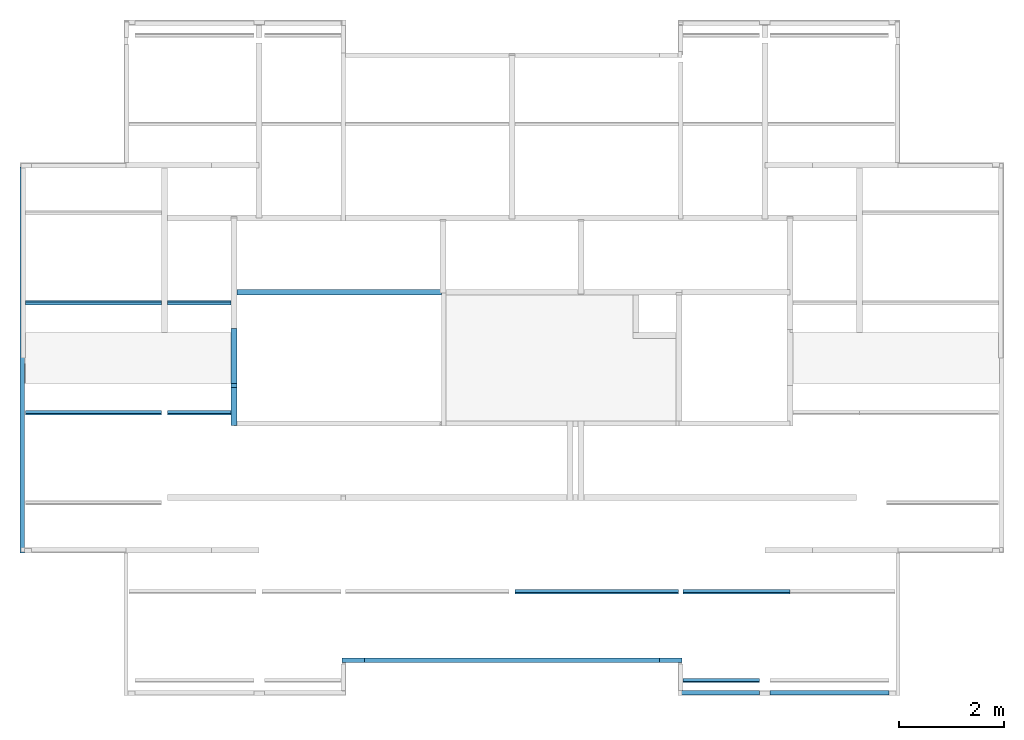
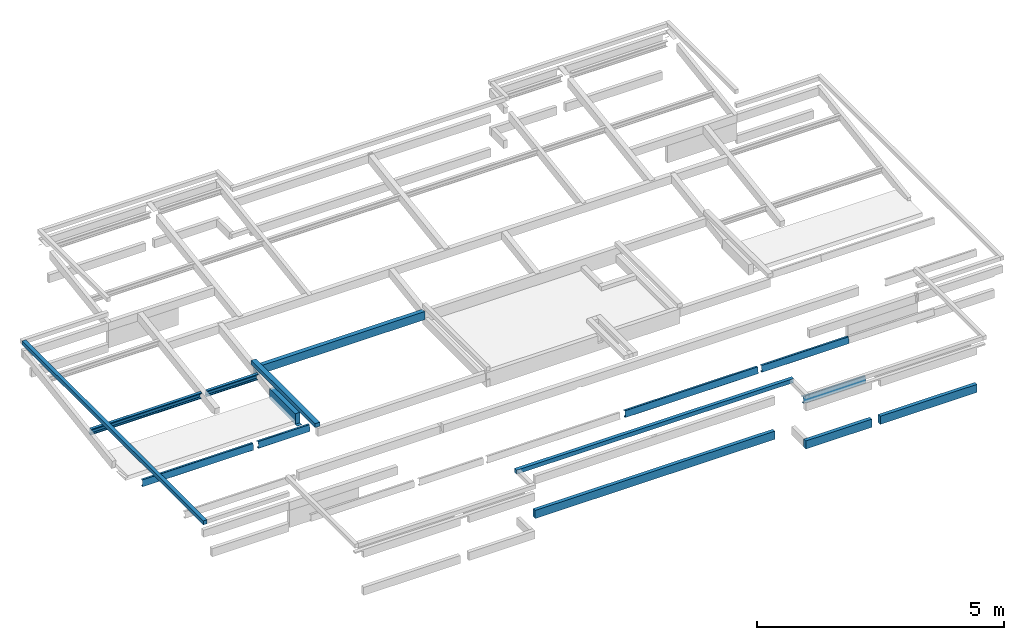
# One storey, part 2 of 9: 14 beams.
"""IFC4 building model written with IfcOpenShell, lengths in metres."""

import ifcopenshell
import ifcopenshell.guid

model = None  # the IFC model being written
_history = None  # IfcOwnerHistory: only IFC2X3 demands one
_inside = {}  # id of a spatial element -> (the spatial element, [elements in it])
_under = {}  # id of a project, library or spatial element -> (it, [spatial elements below it])
_declared = {}  # id of a project -> (the project, [libraries it declares])
_typed = {}  # id of a type object -> (the type object, [elements of that type])
_made_of = {}  # id of a material, layer set ... -> (it, [elements and type objects made of it])


def new_model(schema):
    """Start an empty IFC model of exactly this schema.

    Asked for "IFC4X3", IfcOpenShell would pick the latest addendum, in which some entities
    have other attributes; the version numbers below select the first issue.
    IFC2X3 requires an IfcOwnerHistory on every rooted entity: one is made here for all.
    """
    global model, _history
    if schema == "IFC4X3":
        model = ifcopenshell.file(schema_version=(4, 3, 0, 0))
    else:
        model = ifcopenshell.file(schema=schema)
    _inside.clear()
    _under.clear()
    _declared.clear()
    _typed.clear()
    _made_of.clear()
    _history = None
    if model.schema == "IFC2X3":
        org = make("IfcOrganization", Name="unknown")
        user = make(
            "IfcPersonAndOrganization",
            ThePerson=make("IfcPerson", FamilyName="unknown"),
            TheOrganization=org,
        )
        app = make(
            "IfcApplication",
            ApplicationDeveloper=org,
            Version="unknown",
            ApplicationFullName="unknown",
            ApplicationIdentifier="unknown",
        )
        _history = make(
            "IfcOwnerHistory",
            OwningUser=user,
            OwningApplication=app,
            ChangeAction="ADDED",
            CreationDate=0,
        )
    return model


def make(cls, **values):
    """One entity of the class cls with the attributes given. An attribute that is None is left unset."""
    return model.create_entity(
        cls, **{name: value for name, value in values.items() if value is not None}
    )


def entity(cls, *values):
    """Any entity or typed value of the class cls, its attributes in the order of the schema. None: left unset."""
    e = model.create_entity(cls)
    for i, value in enumerate(values):
        if value is not None:
            e[i] = value
    return e


def rooted(cls, **values):
    """An entity with a GlobalId (a new one), such as an element, a storey or a relation."""
    return make(cls, GlobalId=ifcopenshell.guid.new(), OwnerHistory=_history, **values)


def si_unit(unit_type, name, prefix=None):
    """IfcSIUnit, for example si_unit("LENGTHUNIT", "METRE", prefix="MILLI")."""
    return make("IfcSIUnit", UnitType=unit_type, Prefix=prefix, Name=name)


def converted_unit(unit_type, name, factor, base, dimensions=None, offset=None):
    """IfcConversionBasedUnit, such as the inch: factor (a typed value) times the base unit."""
    return make(
        "IfcConversionBasedUnit"
        if offset is None
        else "IfcConversionBasedUnitWithOffset",
        ConversionOffset=offset,
        Dimensions=None
        if dimensions is None
        else entity("IfcDimensionalExponents", *dimensions),
        UnitType=unit_type,
        Name=name,
        ConversionFactor=make(
            "IfcMeasureWithUnit", ValueComponent=factor, UnitComponent=base
        ),
    )


def derived_unit(unit_type, elements):
    """IfcDerivedUnit: a product of units, each with its exponent."""
    return make(
        "IfcDerivedUnit",
        Elements=[
            make("IfcDerivedUnitElement", Unit=unit, Exponent=power)
            for unit, power in elements
        ],
        UnitType=unit_type,
    )


def assignment(units):
    """IfcUnitAssignment: the units of a project."""
    return None if units is None else make("IfcUnitAssignment", Units=units)


def point(xyz):
    """IfcCartesianPoint."""
    return None if xyz is None else make("IfcCartesianPoint", Coordinates=xyz)


def direction(xyz):
    """IfcDirection."""
    return None if xyz is None else make("IfcDirection", DirectionRatios=xyz)


def frame(location, z_axis=None, x_axis=None):
    """IfcAxis2Placement3D, a coordinate frame: its origin and axes. An axis left out is left unset."""
    return make(
        "IfcAxis2Placement3D",
        Location=point(location),
        Axis=direction(z_axis),
        RefDirection=direction(x_axis),
    )


def origin():
    """The frame at (0, 0, 0) with its axes left unset."""
    return frame((0.0, 0.0, 0.0))


def place(relative_to, where):
    """IfcLocalPlacement: puts the frame where relative to a parent placement (None: the world)."""
    return make(
        "IfcLocalPlacement", PlacementRelTo=relative_to, RelativePlacement=where
    )


def context(
    kind, dimensions, precision=None, world=None, true_north=None, identifier=None
):
    """IfcGeometricRepresentationContext, for example the 3D "Model" context."""
    return make(
        "IfcGeometricRepresentationContext",
        ContextIdentifier=identifier,
        ContextType=kind,
        CoordinateSpaceDimension=dimensions,
        Precision=precision,
        WorldCoordinateSystem=world,
        TrueNorth=true_north,
    )


def subcontext(parent, identifier, kind, view, scale=None):
    """IfcGeometricRepresentationSubContext, for example "Body" below "Model"."""
    return make(
        "IfcGeometricRepresentationSubContext",
        ContextIdentifier=identifier,
        ContextType=kind,
        ParentContext=parent,
        TargetScale=scale,
        TargetView=view,
    )


def project(units=None, contexts=None):
    """IfcProject with its units and contexts."""
    return rooted(
        "IfcProject",
        Name="project",
        RepresentationContexts=contexts,
        UnitsInContext=assignment(units),
    )


def spatial(cls, under=None, at=None, **own):
    """A site, building, storey or space (cls), placed at a placement, below another one or the project."""
    s = rooted(cls, ObjectPlacement=at, **own)
    if under is not None:
        _under.setdefault(under.id(), (under, []))[1].append(s)
    return s


def point_list(points):
    """IfcCartesianPointList2D or 3D."""
    cls = (
        "IfcCartesianPointList2D" if len(points[0]) == 2 else "IfcCartesianPointList3D"
    )
    return make(cls, CoordList=points)


def line(*indices):
    """IfcLineIndex: a straight run through numbered points of an indexed curve."""
    return model.create_entity("IfcLineIndex", indices)


def arc(*indices):
    """IfcArcIndex: an arc through three numbered points of an indexed curve."""
    return model.create_entity("IfcArcIndex", indices)


def indexed_curve(points, segments=None, self_intersect=None):
    """IfcIndexedPolyCurve: lines and arcs through numbered points (the first is 1)."""
    return make(
        "IfcIndexedPolyCurve",
        Points=point_list(points),
        Segments=segments,
        SelfIntersect=self_intersect,
    )


def outline(outer, holes=None, kind="AREA"):
    """IfcArbitraryClosedProfileDef: a profile drawn as a closed curve; with holes, ...WithVoids."""
    if holes is None:
        return make("IfcArbitraryClosedProfileDef", ProfileType=kind, OuterCurve=outer)
    return make(
        "IfcArbitraryProfileDefWithVoids",
        ProfileType=kind,
        OuterCurve=outer,
        InnerCurves=holes,
    )


def extrude(swept, where, along, depth):
    """IfcExtrudedAreaSolid: the profile swept, set in the frame where, extruded along a direction by depth."""
    return make(
        "IfcExtrudedAreaSolid",
        SweptArea=swept,
        Position=where,
        ExtrudedDirection=direction(along),
        Depth=depth,
    )


def shape(context_of_items, identifier, shape_type, items):
    """IfcShapeRepresentation: the items that make up one representation, for example the "Body"."""
    return make(
        "IfcShapeRepresentation",
        ContextOfItems=context_of_items,
        RepresentationIdentifier=identifier,
        RepresentationType=shape_type,
        Items=items,
    )


def source(mapping_origin, context_of_items, identifier, shape_type, items):
    """IfcRepresentationMap: a shape defined once, which mapped items show again and again."""
    return make(
        "IfcRepresentationMap",
        MappingOrigin=mapping_origin,
        MappedRepresentation=shape(context_of_items, identifier, shape_type, items),
    )


def transform(
    local_origin,
    x_axis=None,
    y_axis=None,
    z_axis=None,
    scale=None,
    scale2=None,
    scale3=None,
    uniform=True,
):
    """IfcCartesianTransformationOperator3D, or its non-uniform kind. x_axis, y_axis, z_axis: its Axis1, 2, 3."""
    if uniform:
        return make(
            "IfcCartesianTransformationOperator3D",
            Axis1=direction(x_axis),
            Axis2=direction(y_axis),
            LocalOrigin=point(local_origin),
            Scale=scale,
            Axis3=direction(z_axis),
        )
    return make(
        "IfcCartesianTransformationOperator3DnonUniform",
        Axis1=direction(x_axis),
        Axis2=direction(y_axis),
        LocalOrigin=point(local_origin),
        Scale=scale,
        Axis3=direction(z_axis),
        Scale2=scale2,
        Scale3=scale3,
    )


def mapped(mapping_source, mapping_target):
    """IfcMappedItem: shows the shape of a source again, moved by a transform."""
    return make(
        "IfcMappedItem", MappingSource=mapping_source, MappingTarget=mapping_target
    )


def material(Name=None, Category=None):
    """IfcMaterial."""
    return make("IfcMaterial", Name=Name, Category=Category)


def made_of(thing, what):
    """Note that an element or type object is made of a material, layer set ...; save() writes the relation."""
    if what is not None:
        _made_of.setdefault(what.id(), (what, []))[1].append(thing)
    return thing


def type_object(cls, material=None, **own):
    """A type object (cls), such as IfcWallType, which elements share."""
    return made_of(rooted(cls, **own), material)


def type_shapes(of_type, sources):
    """Give a type object the sources (RepresentationMaps) that its elements show as mapped items."""
    of_type.RepresentationMaps = sources


def element(
    cls,
    number,
    at=None,
    inside=None,
    cuts=None,
    type_object=None,
    material=None,
    context=None,
    identifier="Body",
    shape_type=None,
    held_by="IfcProductDefinitionShape",
    body=None,
    shapes=None,
    **own,
):
    """One element of the class cls, such as IfcWall. Its Tag is "e" and its number.

    at: its placement. inside: the storey or other place that contains it. cuts: it is an
    opening in that element (IfcRelVoidsElement). A single representation is given by context,
    identifier, shape_type and body (its items); several are given by shapes. held_by: the class
    of the entity that holds the representations. save() writes the other relations.
    """
    e = rooted(cls, Tag="e%d" % number, ObjectPlacement=at, **own)
    if body is not None:
        shapes = [shape(context, identifier, shape_type, body)]
    if shapes is not None:
        e.Representation = make(held_by, Representations=shapes)
    if inside is not None:
        _inside.setdefault(inside.id(), (inside, []))[1].append(e)
    if cuts is not None:
        rooted(
            "IfcRelVoidsElement", RelatingBuildingElement=cuts, RelatedOpeningElement=e
        )
    if type_object is not None:
        _typed.setdefault(type_object.id(), (type_object, []))[1].append(e)
    return made_of(e, material)


def aggregate(whole, parts):
    """IfcRelAggregates: a whole, such as a stair, and the parts it consists of."""
    return rooted("IfcRelAggregates", RelatingObject=whole, RelatedObjects=parts)


def save(model, path):
    """Write the relations noted so far, then the file.

    IfcRelAggregates (storeys below a building ...), IfcRelContainedInSpatialStructure (elements
    in a storey), IfcRelDefinesByType, IfcRelAssociatesMaterial and IfcRelDeclares: one each for
    every whole, place, type object, material and project.
    """
    for whole, parts in _under.values():
        aggregate(whole, parts)
    for where, things in _inside.values():
        rooted(
            "IfcRelContainedInSpatialStructure",
            RelatedElements=things,
            RelatingStructure=where,
        )
    for kind, things in _typed.values():
        rooted("IfcRelDefinesByType", RelatedObjects=things, RelatingType=kind)
    for what, things in _made_of.values():
        rooted("IfcRelAssociatesMaterial", RelatedObjects=things, RelatingMaterial=what)
    for by, libraries in _declared.values():
        rooted("IfcRelDeclares", RelatingContext=by, RelatedDefinitions=libraries)
    model.write(path)


model = new_model("IFC4")

# Units and contexts
model_context = context("Model", 3, precision=1e-05, world=origin(), true_north=direction((6.123031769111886e-17, 1.0)))
body_context = subcontext(model_context, "Body", "Model", "MODEL_VIEW")
ifc_project = project(units=[si_unit("LENGTHUNIT", "METRE"), si_unit("AREAUNIT", "SQUARE_METRE"), si_unit("VOLUMEUNIT", "CUBIC_METRE"), converted_unit("PLANEANGLEUNIT", "DEGREE", entity("IfcRatioMeasure", 0.017453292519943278), si_unit("PLANEANGLEUNIT", "RADIAN"), dimensions=[0, 0, 0, 0, 0, 0, 0]), si_unit("MASSUNIT", "GRAM", prefix="KILO"), derived_unit("MASSDENSITYUNIT", [(si_unit("MASSUNIT", "GRAM", prefix="KILO"), 1), (si_unit("LENGTHUNIT", "METRE"), -3)]), derived_unit("IONCONCENTRATIONUNIT", [(si_unit("MASSUNIT", "GRAM", prefix="KILO"), 1), (si_unit("LENGTHUNIT", "METRE"), -3)]), derived_unit("MOMENTOFINERTIAUNIT", [(si_unit("LENGTHUNIT", "METRE"), 4)]), si_unit("TIMEUNIT", "SECOND"), si_unit("FREQUENCYUNIT", "HERTZ"), si_unit("THERMODYNAMICTEMPERATUREUNIT", "DEGREE_CELSIUS"), derived_unit("THERMALTRANSMITTANCEUNIT", [(si_unit("MASSUNIT", "GRAM", prefix="KILO"), 1), (si_unit("THERMODYNAMICTEMPERATUREUNIT", "KELVIN"), -1), (si_unit("TIMEUNIT", "SECOND"), -3)]), derived_unit("THERMALCONDUCTANCEUNIT", [(si_unit("MASSUNIT", "GRAM", prefix="KILO"), 1), (si_unit("THERMODYNAMICTEMPERATUREUNIT", "KELVIN"), -1), (si_unit("TIMEUNIT", "SECOND"), -3), (si_unit("LENGTHUNIT", "METRE"), 1)]), derived_unit("VOLUMETRICFLOWRATEUNIT", [(si_unit("LENGTHUNIT", "METRE"), 3), (si_unit("TIMEUNIT", "SECOND"), -1)]), derived_unit("MASSFLOWRATEUNIT", [(si_unit("MASSUNIT", "GRAM", prefix="KILO"), 1), (si_unit("TIMEUNIT", "SECOND"), -1)]), derived_unit("ROTATIONALFREQUENCYUNIT", [(si_unit("TIMEUNIT", "SECOND"), -1)]), si_unit("ELECTRICCURRENTUNIT", "AMPERE"), si_unit("ELECTRICVOLTAGEUNIT", "VOLT"), si_unit("POWERUNIT", "WATT"), si_unit("FORCEUNIT", "NEWTON", prefix="KILO"), si_unit("ILLUMINANCEUNIT", "LUX"), si_unit("LUMINOUSFLUXUNIT", "LUMEN"), si_unit("LUMINOUSINTENSITYUNIT", "CANDELA"), derived_unit("USERDEFINED", [(si_unit("MASSUNIT", "GRAM", prefix="KILO"), -1), (si_unit("LENGTHUNIT", "METRE"), -2), (si_unit("TIMEUNIT", "SECOND"), 3), (si_unit("LUMINOUSFLUXUNIT", "LUMEN"), 1)]), derived_unit("USERDEFINED", [(si_unit("MASSUNIT", "GRAM", prefix="KILO"), 1), (si_unit("TIMEUNIT", "SECOND"), -3), (si_unit("LENGTHUNIT", "METRE"), 3), (si_unit("ELECTRICCURRENTUNIT", "AMPERE"), -2)]), derived_unit("SOUNDPOWERUNIT", [(si_unit("MASSUNIT", "GRAM", prefix="KILO"), 1), (si_unit("TIMEUNIT", "SECOND"), -3), (si_unit("LENGTHUNIT", "METRE"), 2)]), derived_unit("SOUNDPRESSUREUNIT", [(si_unit("MASSUNIT", "GRAM", prefix="KILO"), 1), (si_unit("LENGTHUNIT", "METRE"), -1), (si_unit("TIMEUNIT", "SECOND"), -2)]), derived_unit("LINEARVELOCITYUNIT", [(si_unit("LENGTHUNIT", "METRE"), 1), (si_unit("TIMEUNIT", "SECOND"), -1)]), si_unit("PRESSUREUNIT", "PASCAL"), derived_unit("USERDEFINED", [(si_unit("MASSUNIT", "GRAM", prefix="KILO"), 1), (si_unit("LENGTHUNIT", "METRE"), -2), (si_unit("TIMEUNIT", "SECOND"), -2)]), derived_unit("LINEARFORCEUNIT", [(si_unit("MASSUNIT", "GRAM", prefix="KILO"), 1), (si_unit("TIMEUNIT", "SECOND"), -2)]), derived_unit("PLANARFORCEUNIT", [(si_unit("MASSUNIT", "GRAM", prefix="KILO"), 1), (si_unit("LENGTHUNIT", "METRE"), -1), (si_unit("TIMEUNIT", "SECOND"), -2)]), derived_unit("SPECIFICHEATCAPACITYUNIT", [(si_unit("THERMODYNAMICTEMPERATUREUNIT", "KELVIN"), -1), (si_unit("LENGTHUNIT", "METRE"), 2), (si_unit("TIMEUNIT", "SECOND"), -2)]), derived_unit("HEATINGVALUEUNIT", [(si_unit("LENGTHUNIT", "METRE"), 2), (si_unit("TIMEUNIT", "SECOND"), -2)]), derived_unit("VAPORPERMEABILITYUNIT", [(si_unit("LENGTHUNIT", "METRE"), -1), (si_unit("TIMEUNIT", "SECOND"), 1)]), derived_unit("DYNAMICVISCOSITYUNIT", [(si_unit("MASSUNIT", "GRAM", prefix="KILO"), 1), (si_unit("TIMEUNIT", "SECOND"), -1), (si_unit("LENGTHUNIT", "METRE"), -1)]), derived_unit("THERMALEXPANSIONCOEFFICIENTUNIT", [(si_unit("THERMODYNAMICTEMPERATUREUNIT", "KELVIN"), -1)]), derived_unit("MODULUSOFELASTICITYUNIT", [(si_unit("MASSUNIT", "GRAM", prefix="KILO"), 1), (si_unit("LENGTHUNIT", "METRE"), -1), (si_unit("TIMEUNIT", "SECOND"), -2)]), derived_unit("ISOTHERMALMOISTURECAPACITYUNIT", [(si_unit("LENGTHUNIT", "METRE"), 3), (si_unit("MASSUNIT", "GRAM", prefix="KILO"), -1)]), derived_unit("MOISTUREDIFFUSIVITYUNIT", [(si_unit("TIMEUNIT", "SECOND"), -1), (si_unit("LENGTHUNIT", "METRE"), 2)])], contexts=[model_context])

# Site, building, storey
site_placement = place(None, origin())
site = spatial("IfcSite", under=ifc_project, at=site_placement, Name="Default", CompositionType="ELEMENT")
building_placement = place(site_placement, origin())
building = spatial("IfcBuilding", under=site, at=building_placement, Name="Las nubes", CompositionType="ELEMENT")
storey_placement = place(building_placement, frame((0.0, 0.0, 14.100000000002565)))
storey = spatial("IfcBuildingStorey", under=building, at=storey_placement, Name="CUBIERTA", CompositionType="ELEMENT", Elevation=14.100000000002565)

# Beams
ifc_material_1 = material(Name="Concrete, Cast In Situ", Category="Materials")
beam_type_1 = type_object("IfcBeamType", Name="M_Concrete-Rectangular Beam:(0.085x0.20)", PredefinedType="BEAM", material=ifc_material_1)
shared_shape_1 = source(origin(), body_context, "Body", "SweptSolid", [
    extrude(outline(indexed_curve([(-0.10000000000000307, -0.04249999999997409), (0.09999999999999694, -0.04250000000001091), (0.10000000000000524, 0.04249999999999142), (-0.09999999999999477, 0.042500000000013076), (-0.10000000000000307, -0.04249999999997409)], self_intersect=False)), frame((6.517499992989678, -12.182500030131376, 14.10000000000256), z_axis=(1.0, 0.0, 0.0), x_axis=(0.0, 0.0, -1.0)), (0.0, 0.0, 1.0), 5.610000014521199),
])
type_shapes(beam_type_1, [shared_shape_1])
beam_1_placement = place(storey_placement, frame((0.0, 0.0, -14.100000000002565)))
element("IfcBeam", 1, at=beam_1_placement, inside=storey, type_object=beam_type_1, material=ifc_material_1, Name="M_Concrete-Rectangular Beam:(0.085x0.20)", ObjectType="M_Concrete-Rectangular Beam:(0.085x0.20)", PredefinedType="BEAM", context=body_context, shape_type="MappedRepresentation", body=[
    mapped(shared_shape_1, transform((0.0, 0.0, 0.0), scale=1.0)),
])
ifc_material_2 = material(Name="Concrete - Cast-in-Place Concrete - 35 MPa", Category="Materials")
beam_type_2 = type_object("IfcBeamType", Name="M_Concrete-Rectangular Beam:(0.085x0.20)", PredefinedType="BEAM", material=ifc_material_2)
shared_shape_2 = source(origin(), body_context, "Body", "SweptSolid", [
    extrude(outline(indexed_curve([(-0.09999999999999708, -0.04250000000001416), (0.10000000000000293, -0.04249999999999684), (0.09999999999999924, 0.0425000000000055), (-0.10000000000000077, 0.04249999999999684), (-0.09999999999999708, -0.04250000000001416)], self_intersect=False)), frame((14.035000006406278, -12.797500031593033, 14.10000000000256), z_axis=(-1.0, 0.0, 0.0), x_axis=(0.0, 0.0, -1.0)), (0.0, 0.0, 1.0), 1.5424999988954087),
    extrude(outline(indexed_curve([(-0.09999999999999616, -0.04250000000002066), (0.10000000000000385, -0.04249999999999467), (0.09999999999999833, 0.042500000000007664), (-0.10000000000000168, 0.04249999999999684), (-0.09999999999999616, -0.04250000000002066)], self_intersect=False)), frame((16.497500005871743, -12.797500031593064, 14.10000000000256), z_axis=(-1.0, 0.0, 0.0), x_axis=(0.0, 0.0, -1.0)), (0.0, 0.0, 1.0), 2.2624999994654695),
])
type_shapes(beam_type_2, [shared_shape_2])
beam_2_placement = place(storey_placement, frame((0.0, 0.0, -14.100000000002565)))
element("IfcBeam", 2, at=beam_2_placement, inside=storey, type_object=beam_type_2, material=ifc_material_2, Name="M_Concrete-Rectangular Beam:(0.085x0.20)", ObjectType="M_Concrete-Rectangular Beam:(0.085x0.20)", PredefinedType="BEAM", context=body_context, shape_type="MappedRepresentation", body=[
    mapped(shared_shape_2, transform((0.0, 0.0, 0.0), scale=1.0)),
])
beam_type_3 = type_object("IfcBeamType", Name="M_Concrete-Rectangular Beam:(0.085x0.10)", PredefinedType="BEAM", material=ifc_material_1)
shared_shape_3 = source(origin(), body_context, "Body", "SweptSolid", [
    extrude(outline(indexed_curve([(-0.050000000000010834, -0.04249999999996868), (0.04999999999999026, -0.04250000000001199), (0.05000000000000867, 0.04249999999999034), (-0.049999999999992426, 0.04250000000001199), (-0.050000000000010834, -0.04249999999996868)], self_intersect=False)), frame((6.08249999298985, -12.182500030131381, 15.29680000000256), z_axis=(1.0, 0.0, 0.0), x_axis=(0.0, 0.0, -1.0)), (0.0, 0.0, 1.0), 6.480000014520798),
])
type_shapes(beam_type_3, [shared_shape_3])
beam_3_placement = place(storey_placement, frame((0.0, 0.0, -14.100000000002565)))
element("IfcBeam", 3, at=beam_3_placement, inside=storey, type_object=beam_type_3, material=ifc_material_1, Name="M_Concrete-Rectangular Beam:(0.085x0.10)", ObjectType="M_Concrete-Rectangular Beam:(0.085x0.10)", PredefinedType="BEAM", context=body_context, shape_type="MappedRepresentation", body=[
    mapped(shared_shape_3, transform((0.0, 0.0, 0.0), scale=1.0)),
])
beam_type_4 = type_object("IfcBeamType", Name="M_Concrete-Rectangular Beam:(0.115x0.10)", PredefinedType="BEAM", material=ifc_material_1)
shared_shape_4 = source(origin(), body_context, "Body", "SweptSolid", [
    extrude(outline(indexed_curve([(-0.04999999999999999, -0.05750000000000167), (0.04999999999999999, -0.05750000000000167), (0.04999999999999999, 0.05750000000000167), (-0.04999999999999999, 0.05750000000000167), (-0.04999999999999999, -0.05750000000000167)], self_intersect=False)), frame((-1.292500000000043, 0.0, 0.0), z_axis=(1.0, 0.0, 0.0), x_axis=(0.0, 0.0, -1.0)), (0.0, 0.0, 1.0), 2.585000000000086),
])
type_shapes(beam_type_4, [shared_shape_4])
beam_4_placement = place(storey_placement, frame((4.029999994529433, -6.417500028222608, 0.35000000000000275), z_axis=(0.0, 0.0, 1.0), x_axis=(0.0, 1.0, 0.0)))
element("IfcBeam", 4, at=beam_4_placement, inside=storey, type_object=beam_type_4, material=ifc_material_1, Name="M_Concrete-Rectangular Beam:(0.115x0.10)", ObjectType="M_Concrete-Rectangular Beam:(0.115x0.10)", PredefinedType="BEAM", context=body_context, shape_type="MappedRepresentation", body=[
    mapped(shared_shape_4, transform((0.0, 0.0, 0.0), scale=1.0)),
])
ifc_material_3 = material(Name="Concrete - Cast-in-Place Concrete - 28 MPa SLAB", Category="Materials")
beam_type_5 = type_object("IfcBeamType", Name="M_Concrete-Rectangular Beam:(0.10x0.20)", PredefinedType="BEAM", material=ifc_material_3)
shared_shape_5 = source(origin(), body_context, "Body", "SweptSolid", [
    extrude(outline(indexed_curve([(-0.10000000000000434, -0.049999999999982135), (0.09999999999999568, -0.05000000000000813), (0.10000000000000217, 0.049999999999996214), (-0.09999999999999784, 0.05000000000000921), (-0.10000000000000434, -0.049999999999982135)], self_intersect=False)), frame((4.02999999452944, -5.1750000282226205, 14.266100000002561), z_axis=(1.0, 0.0, 0.0), x_axis=(0.0, 0.0, -1.0)), (0.0, 0.0, 1.0), 3.9475000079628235),
])
type_shapes(beam_type_5, [shared_shape_5])
beam_5_placement = place(storey_placement, frame((0.0, 0.0, -14.100000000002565)))
element("IfcBeam", 5, at=beam_5_placement, inside=storey, type_object=beam_type_5, material=ifc_material_3, Name="M_Concrete-Rectangular Beam:(0.10x0.20)", ObjectType="M_Concrete-Rectangular Beam:(0.10x0.20)", PredefinedType="BEAM", context=body_context, shape_type="MappedRepresentation", body=[
    mapped(shared_shape_5, transform((0.0, 0.0, 0.0), scale=1.0)),
])
beam_type_6 = type_object("IfcBeamType", Name="M_Concrete-Rectangular Beam:(0.115x0.26)", PredefinedType="BEAM", material=ifc_material_1)
shared_shape_6 = source(origin(), body_context, "Body", "SweptSolid", [
    extrude(outline(indexed_curve([(-0.5844230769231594, -0.1666144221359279), (-0.5109629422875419, -0.1666144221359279), (0.4571167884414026, -0.1666144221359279), (0.45807692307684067, -0.1666144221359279), (0.45807692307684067, -0.007914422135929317), (0.4580769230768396, 0.09208557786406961), (0.5355769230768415, 0.09208557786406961), (0.5355769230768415, 0.09338557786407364), (0.03307692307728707, 0.09338557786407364), (-0.08692307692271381, 0.09338557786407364), (-0.5844230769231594, 0.09338557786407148), (-0.5844230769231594, 0.09208557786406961), (-0.5844230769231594, 0.02457306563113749), (-0.5844230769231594, -0.1666144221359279)], self_intersect=False)), frame((3.972499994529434, -6.451923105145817, 14.092085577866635), z_axis=(1.0, 0.0, 0.0), x_axis=(0.0, -1.0, 0.0)), (0.0, 0.0, 1.0), 0.1150000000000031),
])
type_shapes(beam_type_6, [shared_shape_6])
beam_6_placement = place(storey_placement, frame((0.0, 0.0, -14.100000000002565)))
element("IfcBeam", 6, at=beam_6_placement, inside=storey, type_object=beam_type_6, material=ifc_material_1, Name="M_Concrete-Rectangular Beam:(0.115x0.26)", ObjectType="M_Concrete-Rectangular Beam:(0.115x0.26)", PredefinedType="BEAM", context=body_context, shape_type="MappedRepresentation", body=[
    mapped(shared_shape_6, transform((0.0, 0.0, 0.0), scale=1.0)),
])
ifc_material_4 = material(Name="Steel - 300+", Category="Materials")
beam_type_7 = type_object("IfcBeamType", Name="AUS-C Purlin:CR-1", PredefinedType="BEAM", material=ifc_material_4)
shared_shape_7 = source(origin(), body_context, "Body", "SweptSolid", [
    extrude(outline(indexed_curve([(-0.07614999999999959, -0.023850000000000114), (-0.05965000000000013, -0.023850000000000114), (-0.05965000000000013, -0.02185000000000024), (-0.07615000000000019, -0.02185000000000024), (-0.07721066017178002, -0.021410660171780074), (-0.0776500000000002, -0.020350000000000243), (-0.07765000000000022, 0.03265000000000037), (-0.07721066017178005, 0.033710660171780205), (-0.0761500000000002, 0.03415000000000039), (0.07334999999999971, 0.03415000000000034), (0.07688553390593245, 0.03268553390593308), (0.07834999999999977, 0.029150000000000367), (0.07834999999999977, -0.02035000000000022), (0.07791066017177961, -0.021410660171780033), (0.07684999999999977, -0.02185000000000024), (0.06034999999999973, -0.02185000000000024), (0.06034999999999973, -0.023850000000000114), (0.07685000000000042, -0.023850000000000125), (0.07932487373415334, -0.022824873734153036), (0.0803500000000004, -0.020350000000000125), (0.0803500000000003, 0.029149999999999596), (0.078299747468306, 0.034099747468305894), (0.0733499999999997, 0.03615000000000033), (-0.07614999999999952, 0.036150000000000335), (-0.07862487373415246, 0.03512487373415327), (-0.07964999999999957, 0.032650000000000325), (-0.07964999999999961, -0.020350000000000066), (-0.07862487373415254, -0.02282487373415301)], segments=[line(1, 2, 3, 4), arc(4, 5, 6), line(6, 7), arc(7, 8, 9), line(9, 10), arc(10, 11, 12), line(12, 13), arc(13, 14, 15), line(15, 16, 17, 18), arc(18, 19, 20), line(20, 21), arc(21, 22, 23), line(23, 24), arc(24, 25, 26), line(26, 27), arc(27, 28, 1)], self_intersect=False)), frame((-0.6999999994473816, -0.03415000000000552, 0.00034999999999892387), z_axis=(1.0, 0.0, 0.0), x_axis=(0.0, 0.0, -1.0)), (0.0, 0.0, 1.0), 1.4574999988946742),
])
type_shapes(beam_type_7, [shared_shape_7])
beam_7_placement = place(storey_placement, frame((13.335000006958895, -12.594260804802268, 0.9306191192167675), z_axis=(0.0, 0.14834045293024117, 0.9889363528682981), x_axis=(-1.0, 0.0, 0.0)))
element("IfcBeam", 7, at=beam_7_placement, inside=storey, type_object=beam_type_7, material=ifc_material_4, Name="AUS-C Purlin:CR-1", ObjectType="AUS-C Purlin:CR-1", PredefinedType="BEAM", context=body_context, shape_type="MappedRepresentation", body=[
    mapped(shared_shape_7, transform((0.0, 0.0, 0.0), scale=1.0)),
])
beam_type_8 = type_object("IfcBeamType", Name="AUS-C Purlin:CR-1", PredefinedType="BEAM", material=ifc_material_4)
shared_shape_8 = source(origin(), body_context, "Body", "SweptSolid", [
    extrude(outline(indexed_curve([(-0.07614999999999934, -0.03615000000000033), (0.0733499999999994, -0.036150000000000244), (0.07829974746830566, -0.03409974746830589), (0.08035000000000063, -0.02914999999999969), (0.08035000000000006, 0.020350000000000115), (0.07932487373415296, 0.022824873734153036), (0.07685000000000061, 0.023850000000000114), (0.06034999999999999, 0.023850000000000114), (0.06034999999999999, 0.02185000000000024), (0.07684999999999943, 0.02185000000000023), (0.07791066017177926, 0.02141066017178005), (0.07835, 0.020350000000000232), (0.07834999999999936, -0.029150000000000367), (0.0768855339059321, -0.032685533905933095), (0.07334999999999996, -0.03415000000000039), (-0.07615000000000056, -0.03415000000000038), (-0.0772106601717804, -0.033710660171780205), (-0.07764999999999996, -0.03265000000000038), (-0.07765000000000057, 0.02035000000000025), (-0.07721066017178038, 0.021410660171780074), (-0.07614999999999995, 0.02185000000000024), (-0.059649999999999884, 0.02185000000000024), (-0.059649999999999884, 0.023850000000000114), (-0.07614999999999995, 0.023850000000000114), (-0.07862487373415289, 0.02282487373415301), (-0.07964999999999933, 0.020350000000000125), (-0.07964999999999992, -0.032650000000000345), (-0.0786248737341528, -0.03512487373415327)], segments=[line(1, 2), arc(2, 3, 4), line(4, 5), arc(5, 6, 7), line(7, 8, 9, 10), arc(10, 11, 12), line(12, 13), arc(13, 14, 15), line(15, 16), arc(16, 17, 18), line(18, 19), arc(19, 20, 21), line(21, 22, 23, 24), arc(24, 25, 26), line(26, 27), arc(27, 28, 1)], self_intersect=False)), frame((-1.546093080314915, 0.03415000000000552, 0.00034999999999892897), z_axis=(1.0, 0.0, 0.0), x_axis=(0.0, 0.0, -1.0)), (0.0, 0.0, 1.0), 3.109843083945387),
])
type_shapes(beam_type_8, [shared_shape_8])
beam_8_placement = place(storey_placement, frame((10.92875000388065, -10.904557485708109, 0.6771636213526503), z_axis=(0.0, 0.14834045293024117, 0.9889363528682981), x_axis=(1.0, 0.0, 0.0)))
element("IfcBeam", 8, at=beam_8_placement, inside=storey, type_object=beam_type_8, material=ifc_material_4, Name="AUS-C Purlin:CR-1", ObjectType="AUS-C Purlin:CR-1", PredefinedType="BEAM", context=body_context, shape_type="MappedRepresentation", body=[
    mapped(shared_shape_8, transform((0.0, 0.0, 0.0), scale=1.0)),
])
beam_type_9 = type_object("IfcBeamType", Name="AUS-C Purlin:CR-1", PredefinedType="BEAM", material=ifc_material_4)
shared_shape_9 = source(origin(), body_context, "Body", "SweptSolid", [
    extrude(outline(indexed_curve([(-0.07614999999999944, -0.03615000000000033), (0.07334999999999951, -0.036150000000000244), (0.07829974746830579, -0.03409974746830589), (0.08035000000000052, -0.02914999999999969), (0.08035000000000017, 0.020350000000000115), (0.07932487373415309, 0.022824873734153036), (0.07685000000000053, 0.023850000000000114), (0.06034999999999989, 0.023850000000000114), (0.06034999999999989, 0.02185000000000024), (0.07684999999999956, 0.02185000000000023), (0.07791066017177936, 0.021410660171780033), (0.07834999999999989, 0.020350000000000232), (0.07834999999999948, -0.029150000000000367), (0.07688553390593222, -0.032685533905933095), (0.07334999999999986, -0.03415000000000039), (-0.07615000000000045, -0.03415000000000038), (-0.07721066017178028, -0.033710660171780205), (-0.07765000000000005, -0.03265000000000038), (-0.07765000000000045, 0.02035000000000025), (-0.07721066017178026, 0.021410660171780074), (-0.07615000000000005, 0.02185000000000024), (-0.05964999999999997, 0.02185000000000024), (-0.05964999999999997, 0.023850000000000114), (-0.07614999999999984, 0.023850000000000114), (-0.07862487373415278, 0.02282487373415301), (-0.07964999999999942, 0.020350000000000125), (-0.07964999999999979, -0.032650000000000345), (-0.0786248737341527, -0.03512487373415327)], segments=[line(1, 2), arc(2, 3, 4), line(4, 5), arc(5, 6, 7), line(7, 8, 9, 10), arc(10, 11, 12), line(12, 13), arc(13, 14, 15), line(15, 16), arc(16, 17, 18), line(18, 19), arc(19, 20, 21), line(21, 22, 23, 24), arc(24, 25, 26), line(26, 27), arc(27, 28, 1)], self_intersect=False)), frame((-0.9967470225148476, 0.03415000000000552, 0.00034999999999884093), z_axis=(1.0, 0.0, 0.0), x_axis=(0.0, 0.0, -1.0)), (0.0, 0.0, 1.0), 2.036747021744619),
])
type_shapes(beam_type_9, [shared_shape_9])
beam_9_placement = place(storey_placement, frame((13.57500000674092, -10.904557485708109, 0.6771636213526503), z_axis=(0.0, 0.14834045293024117, 0.9889363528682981), x_axis=(1.0, 0.0, 0.0)))
element("IfcBeam", 9, at=beam_9_placement, inside=storey, type_object=beam_type_9, material=ifc_material_4, Name="AUS-C Purlin:CR-1", ObjectType="AUS-C Purlin:CR-1", PredefinedType="BEAM", context=body_context, shape_type="MappedRepresentation", body=[
    mapped(shared_shape_9, transform((0.0, 0.0, 0.0), scale=1.0)),
])
beam_type_10 = type_object("IfcBeamType", Name="AUS-C Purlin:CR-1", PredefinedType="BEAM", material=ifc_material_4)
shared_shape_10 = source(origin(), body_context, "Body", "SweptSolid", [
    extrude(outline(indexed_curve([(-0.07614999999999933, -0.03615000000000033), (0.07334999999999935, -0.036150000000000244), (0.0782997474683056, -0.03409974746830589), (0.08035000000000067, -0.02914999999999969), (0.08035000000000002, 0.020350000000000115), (0.07932487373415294, 0.022824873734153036), (0.07685000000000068, 0.023850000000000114), (0.060349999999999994, 0.023850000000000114), (0.060349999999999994, 0.02185000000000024), (0.0768499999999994, 0.02185000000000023), (0.07791066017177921, 0.021410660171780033), (0.07835000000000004, 0.020350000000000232), (0.07834999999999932, -0.029150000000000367), (0.07688553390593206, -0.032685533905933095), (0.07334999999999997, -0.03415000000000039), (-0.07615000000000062, -0.03415000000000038), (-0.07721066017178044, -0.033710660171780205), (-0.07764999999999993, -0.03265000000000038), (-0.07765000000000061, 0.02035000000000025), (-0.07721066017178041, 0.021410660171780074), (-0.07614999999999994, 0.02185000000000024), (-0.05964999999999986, 0.02185000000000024), (-0.05964999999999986, 0.023850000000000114), (-0.07615000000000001, 0.023850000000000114), (-0.0786248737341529, 0.022824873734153), (-0.0796499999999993, 0.020350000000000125), (-0.07964999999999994, -0.032650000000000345), (-0.07862487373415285, -0.03512487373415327)], segments=[line(1, 2), arc(2, 3, 4), line(4, 5), arc(5, 6, 7), line(7, 8, 9, 10), arc(10, 11, 12), line(12, 13), arc(13, 14, 15), line(15, 16), arc(16, 17, 18), line(18, 19), arc(19, 20, 21), line(21, 22, 23, 24), arc(24, 25, 26), line(26, 27), arc(27, 28, 1)], self_intersect=False)), frame((-1.3043464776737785, 0.03415000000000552, 0.00034999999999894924), z_axis=(1.0, 0.0, 0.0), x_axis=(0.0, 0.0, -1.0)), (0.0, 0.0, 1.0), 2.593814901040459),
])
type_shapes(beam_type_10, [shared_shape_10])
beam_10_placement = place(storey_placement, frame((1.3625005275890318, -7.499557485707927, 0.1664136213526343), z_axis=(0.0, 0.14834045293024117, 0.9889363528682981), x_axis=(1.0, 0.0, 0.0)))
element("IfcBeam", 10, at=beam_10_placement, inside=storey, type_object=beam_type_10, material=ifc_material_4, Name="AUS-C Purlin:CR-1", ObjectType="AUS-C Purlin:CR-1", PredefinedType="BEAM", context=body_context, shape_type="MappedRepresentation", body=[
    mapped(shared_shape_10, transform((0.0, 0.0, 0.0), scale=1.0)),
])
beam_type_11 = type_object("IfcBeamType", Name="AUS-C Purlin:CR-1", PredefinedType="BEAM", material=ifc_material_4)
shared_shape_11 = source(origin(), body_context, "Body", "SweptSolid", [
    extrude(outline(indexed_curve([(-0.07614999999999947, -0.03615000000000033), (0.07334999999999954, -0.036150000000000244), (0.07829974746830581, -0.03409974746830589), (0.08035000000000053, -0.02914999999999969), (0.08035000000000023, 0.020350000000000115), (0.07932487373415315, 0.022824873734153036), (0.07685000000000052, 0.023850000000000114), (0.06034999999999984, 0.023850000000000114), (0.06034999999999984, 0.02185000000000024), (0.0768499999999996, 0.02185000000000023), (0.07791066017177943, 0.02141066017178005), (0.0783499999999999, 0.020350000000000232), (0.07834999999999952, -0.029150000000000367), (0.07688553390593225, -0.032685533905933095), (0.07334999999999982, -0.03415000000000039), (-0.0761500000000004, -0.03415000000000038), (-0.07721066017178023, -0.033710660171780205), (-0.07765000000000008, -0.03265000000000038), (-0.0776500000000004, 0.02035000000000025), (-0.07721066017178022, 0.021410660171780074), (-0.07615000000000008, 0.02185000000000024), (-0.059650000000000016, 0.02185000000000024), (-0.059650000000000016, 0.023850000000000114), (-0.0761499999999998, 0.023850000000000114), (-0.07862487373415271, 0.022824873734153), (-0.07964999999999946, 0.020350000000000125), (-0.07964999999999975, -0.032650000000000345), (-0.07862487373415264, -0.03512487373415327)], segments=[line(1, 2), arc(2, 3, 4), line(4, 5), arc(5, 6, 7), line(7, 8, 9, 10), arc(10, 11, 12), line(12, 13), arc(13, 14, 15), line(15, 16), arc(16, 17, 18), line(18, 19), arc(19, 20, 21), line(21, 22, 23, 24), arc(24, 25, 26), line(26, 27), arc(27, 28, 1)], self_intersect=False)), frame((-0.6017504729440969, 0.03415000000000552, 0.0003499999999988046), z_axis=(1.0, 0.0, 0.0), x_axis=(0.0, 0.0, -1.0)), (0.0, 0.0, 1.0), 1.2034761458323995),
])
type_shapes(beam_type_11, [shared_shape_11])
beam_11_placement = place(storey_placement, frame((3.3700005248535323, -7.499557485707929, 0.1664136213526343), z_axis=(0.0, 0.14834045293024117, 0.9889363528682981), x_axis=(1.0, 0.0, 0.0)))
element("IfcBeam", 11, at=beam_11_placement, inside=storey, type_object=beam_type_11, material=ifc_material_4, Name="AUS-C Purlin:CR-1", ObjectType="AUS-C Purlin:CR-1", PredefinedType="BEAM", context=body_context, shape_type="MappedRepresentation", body=[
    mapped(shared_shape_11, transform((0.0, 0.0, 0.0), scale=1.0)),
])
beam_type_12 = type_object("IfcBeamType", Name="AUS-C Purlin:CR-1", PredefinedType="BEAM", material=ifc_material_4)
shared_shape_12 = source(origin(), body_context, "Body", "SweptSolid", [
    extrude(outline(indexed_curve([(-0.07614999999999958, -0.023850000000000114), (-0.05965000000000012, -0.023850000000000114), (-0.05965000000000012, -0.02185000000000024), (-0.07615000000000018, -0.02185000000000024), (-0.07721066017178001, -0.021410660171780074), (-0.07765000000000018, -0.020350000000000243), (-0.07765000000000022, 0.03265000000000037), (-0.07721066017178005, 0.033710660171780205), (-0.07615000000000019, 0.03415000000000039), (0.07334999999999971, 0.03415000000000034), (0.07688553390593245, 0.03268553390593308), (0.07834999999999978, 0.029150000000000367), (0.07834999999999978, -0.02035000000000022), (0.07791066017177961, -0.021410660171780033), (0.0768499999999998, -0.02185000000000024), (0.060349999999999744, -0.02185000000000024), (0.060349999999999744, -0.023850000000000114), (0.0768500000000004, -0.023850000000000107), (0.07932487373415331, -0.022824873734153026), (0.08035000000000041, -0.020350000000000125), (0.08035000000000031, 0.029149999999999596), (0.078299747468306, 0.034099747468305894), (0.0733499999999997, 0.03615000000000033), (-0.07614999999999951, 0.036150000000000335), (-0.07862487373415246, 0.03512487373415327), (-0.07964999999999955, 0.032650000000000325), (-0.07964999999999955, -0.020350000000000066), (-0.07862487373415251, -0.022824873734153)], segments=[line(1, 2, 3, 4), arc(4, 5, 6), line(6, 7), arc(7, 8, 9), line(9, 10), arc(10, 11, 12), line(12, 13), arc(13, 14, 15), line(15, 16, 17, 18), arc(18, 19, 20), line(20, 21), arc(21, 22, 23), line(23, 24), arc(24, 25, 26), line(26, 27), arc(27, 28, 1)], self_intersect=False)), frame((-1.3043464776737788, -0.03415000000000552, 0.00034999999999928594), z_axis=(1.0, 0.0, 0.0), x_axis=(0.0, 0.0, -1.0)), (0.0, 0.0, 1.0), 2.593814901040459),
])
type_shapes(beam_type_12, [shared_shape_12])
beam_12_placement = place(storey_placement, frame((1.3625005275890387, -5.350442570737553, 0.1664136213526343), z_axis=(0.0, -0.14834045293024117, 0.9889363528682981), x_axis=(1.0, 0.0, 0.0)))
element("IfcBeam", 12, at=beam_12_placement, inside=storey, type_object=beam_type_12, material=ifc_material_4, Name="AUS-C Purlin:CR-1", ObjectType="AUS-C Purlin:CR-1", PredefinedType="BEAM", context=body_context, shape_type="MappedRepresentation", body=[
    mapped(shared_shape_12, transform((0.0, 0.0, 0.0), scale=1.0)),
])
beam_type_13 = type_object("IfcBeamType", Name="AUS-C Purlin:CR-1", PredefinedType="BEAM", material=ifc_material_4)
shared_shape_13 = source(origin(), body_context, "Body", "SweptSolid", [
    extrude(outline(indexed_curve([(-0.07614999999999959, -0.023850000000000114), (-0.05965000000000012, -0.023850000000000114), (-0.05965000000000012, -0.02185000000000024), (-0.07615000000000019, -0.02185000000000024), (-0.07721066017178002, -0.021410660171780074), (-0.0776500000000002, -0.020350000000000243), (-0.07765000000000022, 0.03265000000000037), (-0.07721066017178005, 0.033710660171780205), (-0.0761500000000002, 0.03415000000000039), (0.07334999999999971, 0.03415000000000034), (0.07688553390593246, 0.03268553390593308), (0.07834999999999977, 0.029150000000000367), (0.07834999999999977, -0.02035000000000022), (0.07791066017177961, -0.021410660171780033), (0.07684999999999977, -0.02185000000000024), (0.060349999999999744, -0.02185000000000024), (0.060349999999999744, -0.023850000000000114), (0.07685000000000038, -0.023850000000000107), (0.0793248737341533, -0.022824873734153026), (0.0803500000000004, -0.020350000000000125), (0.08035000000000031, 0.029149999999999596), (0.07829974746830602, 0.034099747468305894), (0.0733499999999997, 0.03615000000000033), (-0.07614999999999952, 0.036150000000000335), (-0.07862487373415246, 0.03512487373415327), (-0.07964999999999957, 0.032650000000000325), (-0.07964999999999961, -0.020350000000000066), (-0.07862487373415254, -0.02282487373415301)], segments=[line(1, 2, 3, 4), arc(4, 5, 6), line(6, 7), arc(7, 8, 9), line(9, 10), arc(10, 11, 12), line(12, 13), arc(13, 14, 15), line(15, 16, 17, 18), arc(18, 19, 20), line(20, 21), arc(21, 22, 23), line(23, 24), arc(24, 25, 26), line(26, 27), arc(27, 28, 1)], self_intersect=False)), frame((-0.6017504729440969, -0.03415000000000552, 0.0003499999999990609), z_axis=(1.0, 0.0, 0.0), x_axis=(0.0, 0.0, -1.0)), (0.0, 0.0, 1.0), 1.2034761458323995),
])
type_shapes(beam_type_13, [shared_shape_13])
beam_13_placement = place(storey_placement, frame((3.37000052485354, -5.350442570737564, 0.1664136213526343), z_axis=(0.0, -0.14834045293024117, 0.9889363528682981), x_axis=(1.0, 0.0, 0.0)))
element("IfcBeam", 13, at=beam_13_placement, inside=storey, type_object=beam_type_13, material=ifc_material_4, Name="AUS-C Purlin:CR-1", ObjectType="AUS-C Purlin:CR-1", PredefinedType="BEAM", context=body_context, shape_type="MappedRepresentation", body=[
    mapped(shared_shape_13, transform((0.0, 0.0, 0.0), scale=1.0)),
])
beam_type_14 = type_object("IfcBeamType", Name="M_Concrete-Rectangular Beam:(0.085x0.10)", PredefinedType="BEAM", material=ifc_material_1)
shared_shape_14 = source(origin(), body_context, "Body", "SweptSolid", [
    extrude(outline(indexed_curve([(-0.04250000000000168, -0.050000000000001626), (0.04250000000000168, -0.04999999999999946), (0.04250000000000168, 0.04999999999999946), (-0.04250000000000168, 0.04999999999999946), (-0.04250000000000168, -0.050000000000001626)], self_intersect=False)), frame((0.0, -2.795000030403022, 14.92580000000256), z_axis=(0.0, -1.0, 0.0), x_axis=(-1.0, 0.0, 0.0)), (0.0, 0.0, 1.0), 7.3450000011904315),
])
type_shapes(beam_type_14, [shared_shape_14])
beam_14_placement = place(storey_placement, frame((0.0, 0.0, -14.100000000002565)))
element("IfcBeam", 14, at=beam_14_placement, inside=storey, type_object=beam_type_14, material=ifc_material_1, Name="M_Concrete-Rectangular Beam:(0.085x0.10)", ObjectType="M_Concrete-Rectangular Beam:(0.085x0.10)", PredefinedType="BEAM", context=body_context, shape_type="MappedRepresentation", body=[
    mapped(shared_shape_14, transform((0.0, 0.0, 0.0), scale=1.0)),
])

save(model, "model.ifc")
